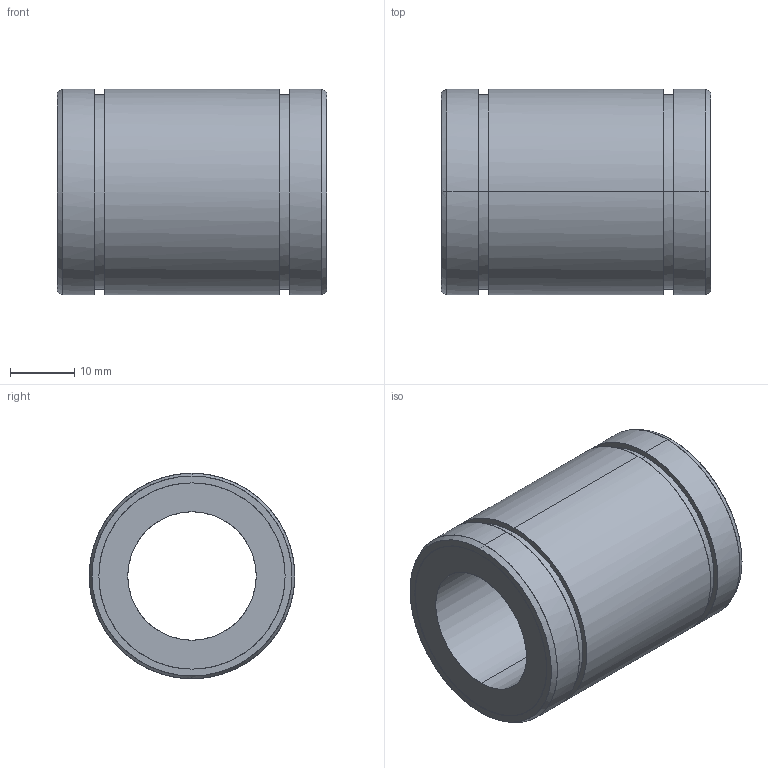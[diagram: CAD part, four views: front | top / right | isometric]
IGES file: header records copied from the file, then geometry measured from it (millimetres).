
Global section: file name: No Iges File Name specified; native system: AutoDesk Inventor R10; preprocessor: AutoDesk Inventor Iges Exporter R10; author: No Author specified; organization: No Organization specified; date: 20101208.094943; units: millimetre
Bounding box: 42 x 32 x 32 mm (x, y, z)
Surface area: 8095.2 mm2 (no closed solid volume)
Topology: 0 solids, 0 shells, 28 faces, 184 edges, 184 vertices
Faces by surface type: bspline 28
